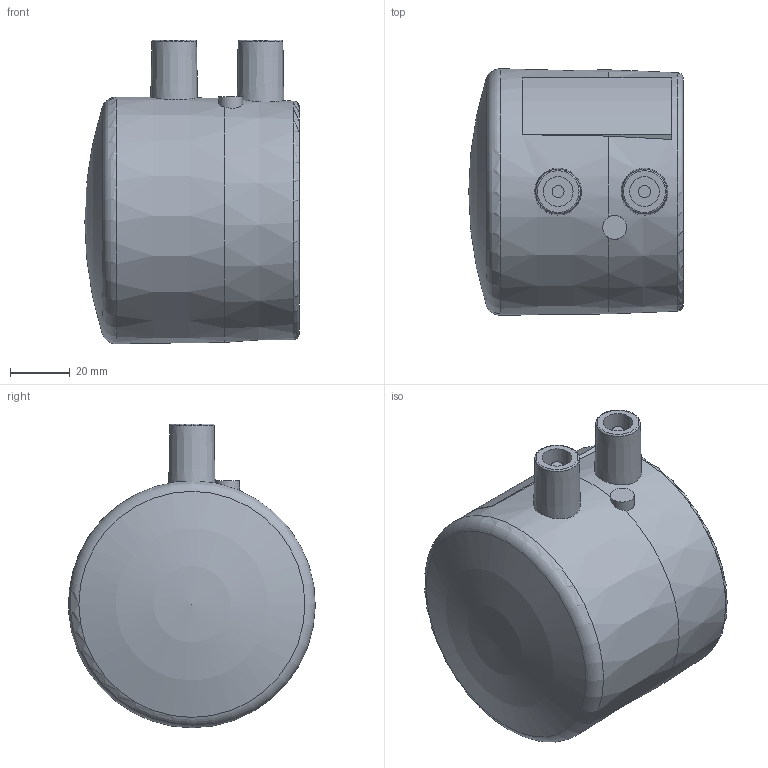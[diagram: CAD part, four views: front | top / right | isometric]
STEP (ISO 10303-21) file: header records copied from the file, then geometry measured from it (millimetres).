
FILE_DESCRIPTION(/* description */ ('Unknown'),/* implementation_level */ '2;1');
FILE_NAME(/* name */ 'CAEP063C',/* time_stamp */ '2021-02-11T10:14:10+01:00',/* author */ ('Unknown'),/* organization */ ('Unknown'),/* preprocessor_version */ 'ST-DEVELOPER v16.7',/* originating_system */ 'Solid Edge',/* authorisation */ 'Unknown');
FILE_SCHEMA (('AUTOMOTIVE_DESIGN {1 0 10303 214 3 1 1}'));
Length unit declared in the file: millimetre
Products named in the file (1): CAEP063C
Bounding box: 72 x 82.82 x 101.95 mm (x, y, z)
Volume: 188914.2 mm3; surface area: 40925.6 mm2
Topology: 1 solids, 1 shells, 34 faces, 79 edges, 52 vertices
Faces by surface type: plane 16, cylinder 7, cone 6, torus 4, sphere 1
Full cylindrical faces by diameter (mm): 4 x2, 8 x1, 10 x2, 63 x1
Entity records: 872 total; most frequent: CARTESIAN_POINT 205, DIRECTION 135, ORIENTED_EDGE 102, AXIS2_PLACEMENT_3D 62, FACE_BOUND 56, EDGE_LOOP 55, EDGE_CURVE 51, VERTEX_POINT 41
